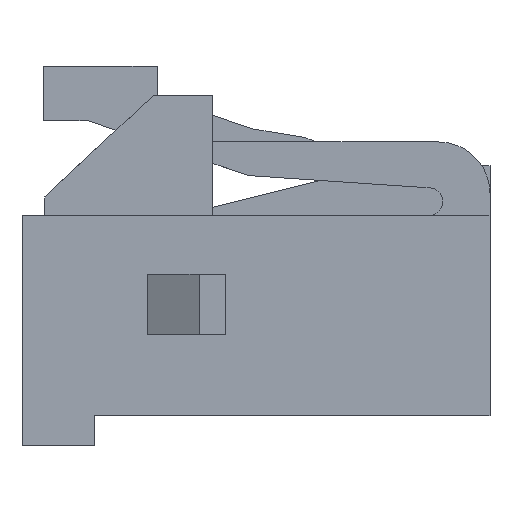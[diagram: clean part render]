
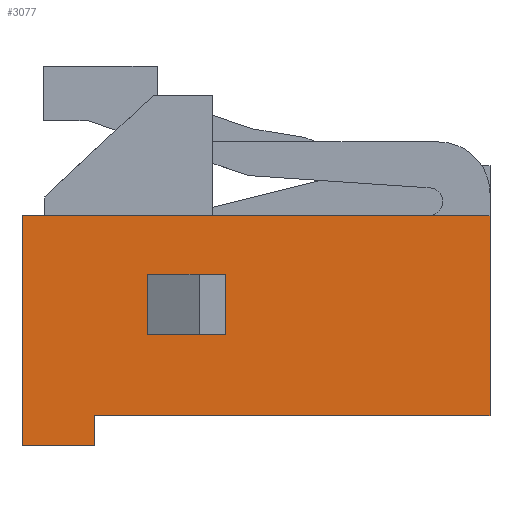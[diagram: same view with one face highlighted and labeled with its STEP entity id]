
A CAD part, left-side view. The second image highlights one B-rep face of the part: STEP entity #3077.
In plain terms, the highlighted planar face has unit normal (-1, 0, 0).
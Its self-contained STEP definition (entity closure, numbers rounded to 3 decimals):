
#549=DIRECTION('',(0.,0.,1.));
#550=VECTOR('',#549,0.6);
#551=CARTESIAN_POINT('',(-5.5,3.2,-3.793));
#552=LINE('',#551,#550);
#553=DIRECTION('',(0.,0.,-1.));
#554=VECTOR('',#553,4.6);
#555=CARTESIAN_POINT('',(-5.5,4.65,0.807));
#556=LINE('',#555,#554);
#557=DIRECTION('',(0.,1.,0.));
#558=VECTOR('',#557,9.35);
#559=CARTESIAN_POINT('',(-5.5,-4.7,0.807));
#560=LINE('',#559,#558);
#561=DIRECTION('',(0.,0.,1.));
#562=VECTOR('',#561,4.);
#563=CARTESIAN_POINT('',(-5.5,-4.7,-3.193));
#564=LINE('',#563,#562);
#565=DIRECTION('',(0.,1.,0.));
#566=VECTOR('',#565,1.569);
#567=CARTESIAN_POINT('',(-5.5,0.579,-1.563));
#568=LINE('',#567,#566);
#569=DIRECTION('',(0.,0.,1.));
#570=VECTOR('',#569,1.2);
#571=CARTESIAN_POINT('',(-5.5,2.148,-1.563));
#572=LINE('',#571,#570);
#581=DIRECTION('',(0.,1.,0.));
#582=VECTOR('',#581,7.9);
#583=CARTESIAN_POINT('',(-5.5,-4.7,-3.193));
#584=LINE('',#583,#582);
#1379=DIRECTION('',(0.,1.,0.));
#1380=VECTOR('',#1379,1.45);
#1381=CARTESIAN_POINT('',(-5.5,3.2,-3.793));
#1382=LINE('',#1381,#1380);
#1675=DIRECTION('',(0.,1.,0.));
#1676=VECTOR('',#1675,1.569);
#1677=CARTESIAN_POINT('',(-5.5,0.579,-0.363));
#1678=LINE('',#1677,#1676);
#1695=DIRECTION('',(0.,0.,1.));
#1696=VECTOR('',#1695,1.2);
#1697=CARTESIAN_POINT('',(-5.5,0.579,-1.563));
#1698=LINE('',#1697,#1696);
#1847=CARTESIAN_POINT('',(-5.5,-4.7,0.807));
#1848=CARTESIAN_POINT('',(-5.5,4.65,0.807));
#1849=VERTEX_POINT('',#1847);
#1850=VERTEX_POINT('',#1848);
#1851=CARTESIAN_POINT('',(-5.5,4.65,-3.793));
#1852=VERTEX_POINT('',#1851);
#1853=CARTESIAN_POINT('',(-5.5,0.579,-1.563));
#1854=CARTESIAN_POINT('',(-5.5,2.148,-1.563));
#1855=VERTEX_POINT('',#1853);
#1856=VERTEX_POINT('',#1854);
#1857=CARTESIAN_POINT('',(-5.5,2.148,-0.363));
#1858=VERTEX_POINT('',#1857);
#1859=CARTESIAN_POINT('',(-5.5,0.579,-0.363));
#1860=VERTEX_POINT('',#1859);
#2260=CARTESIAN_POINT('',(-5.5,-4.7,-3.193));
#2262=VERTEX_POINT('',#2260);
#2264=CARTESIAN_POINT('',(-5.5,3.2,-3.793));
#2265=VERTEX_POINT('',#2264);
#2266=CARTESIAN_POINT('',(-5.5,3.2,-3.193));
#2267=VERTEX_POINT('',#2266);
#3049=CARTESIAN_POINT('',(-5.5,4.65,-3.793));
#3050=DIRECTION('',(1.,0.,0.));
#3051=DIRECTION('',(0.,0.,-1.));
#3052=AXIS2_PLACEMENT_3D('',#3049,#3050,#3051);
#3053=PLANE('',#3052);
#3055=ORIENTED_EDGE('',*,*,#3054,.F.);
#3057=ORIENTED_EDGE('',*,*,#3056,.T.);
#3059=ORIENTED_EDGE('',*,*,#3058,.F.);
#3060=ORIENTED_EDGE('',*,*,#2703,.F.);
#3062=ORIENTED_EDGE('',*,*,#3061,.F.);
#3064=ORIENTED_EDGE('',*,*,#3063,.T.);
#3065=EDGE_LOOP('',(#3055,#3057,#3059,#3060,#3062,#3064));
#3066=FACE_OUTER_BOUND('',#3065,.F.);
#3068=ORIENTED_EDGE('',*,*,#3067,.F.);
#3070=ORIENTED_EDGE('',*,*,#3069,.T.);
#3072=ORIENTED_EDGE('',*,*,#3071,.T.);
#3074=ORIENTED_EDGE('',*,*,#3073,.F.);
#3075=EDGE_LOOP('',(#3068,#3070,#3072,#3074));
#3076=FACE_BOUND('',#3075,.F.);
#3077=ADVANCED_FACE('',(#3066,#3076),#3053,.F.);
#2703=EDGE_CURVE('',#1849,#1850,#560,.T.);
#3054=EDGE_CURVE('',#2265,#2267,#552,.T.);
#3056=EDGE_CURVE('',#2265,#1852,#1382,.T.);
#3058=EDGE_CURVE('',#1850,#1852,#556,.T.);
#3061=EDGE_CURVE('',#2262,#1849,#564,.T.);
#3063=EDGE_CURVE('',#2262,#2267,#584,.T.);
#3067=EDGE_CURVE('',#1855,#1856,#568,.T.);
#3069=EDGE_CURVE('',#1855,#1860,#1698,.T.);
#3071=EDGE_CURVE('',#1860,#1858,#1678,.T.);
#3073=EDGE_CURVE('',#1856,#1858,#572,.T.);
